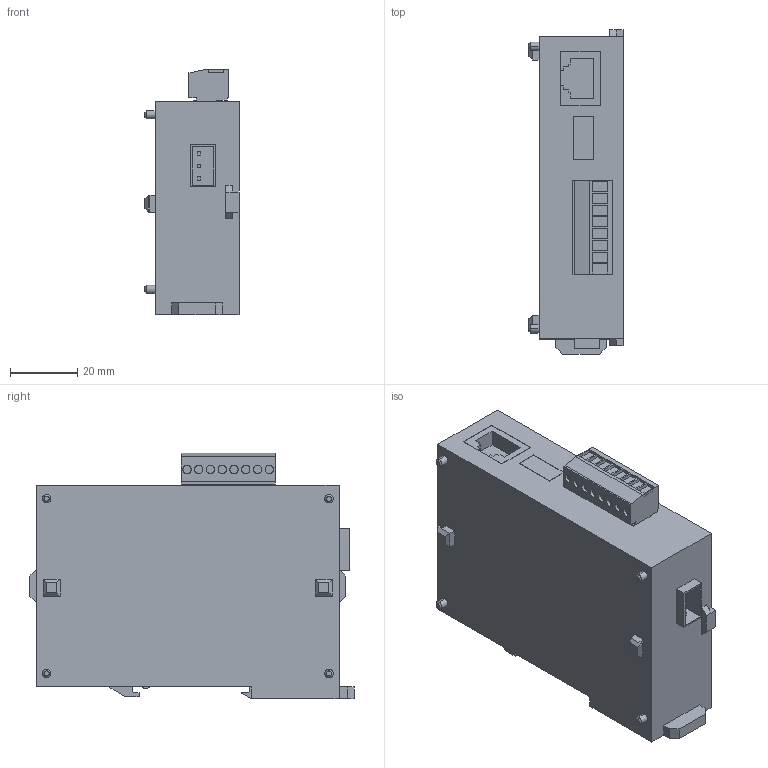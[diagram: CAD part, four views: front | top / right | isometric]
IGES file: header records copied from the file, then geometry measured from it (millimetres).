
Global section: preprocessor: SolidWorks 2008; organization: PanasonicElectricWorks; date: 100126.163251; units: millimetre
Bounding box: 28 x 96.5 x 73 mm (x, y, z)
Surface area: 21617.6 mm2 (no closed solid volume)
Topology: 0 solids, 0 shells, 255 faces, 2154 edges, 2154 vertices
Faces by surface type: bspline 211, revolution 44
